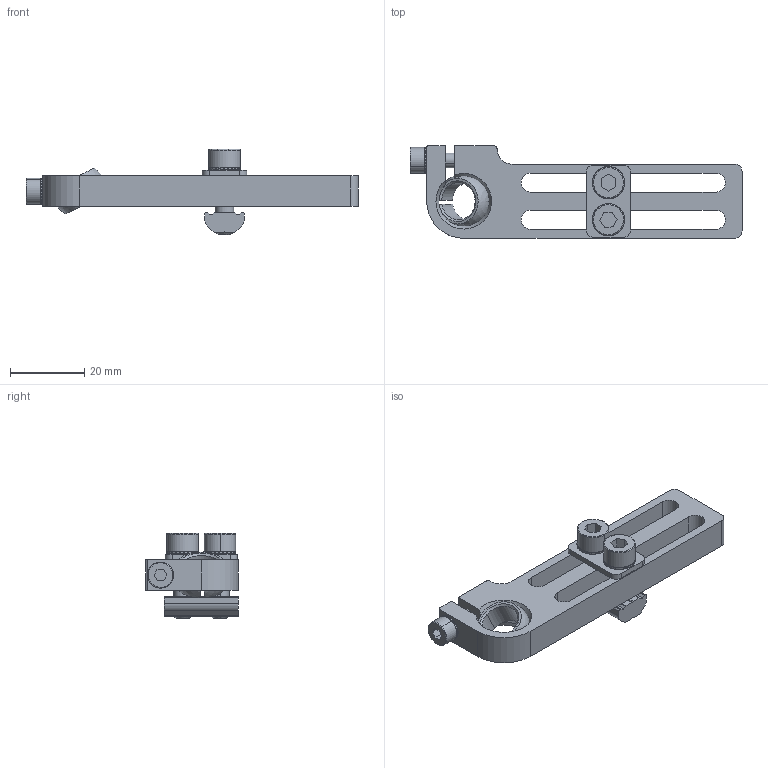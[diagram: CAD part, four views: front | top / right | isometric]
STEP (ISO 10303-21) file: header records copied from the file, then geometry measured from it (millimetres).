
FILE_DESCRIPTION(/* description */ (''),/* implementation_level */ '2;1');
FILE_NAME(/* name */ 'SMBE8-1050',/* time_stamp */ '2022-06-23T09:58:04+08:00',/* author */ (''),/* organization */ (''),/* preprocessor_version */ 'ST-DEVELOPER v9',/* originating_system */ 'UGS - NX 4.0',/* authorisation */ '');
FILE_SCHEMA (('AUTOMOTIVE_DESIGN { 1 0 10303 214 1 1 1 1 }'));
Length unit declared in the file: millimetre
Products named in the file (1): Admi849Cwone
Bounding box: 89.5 x 25 x 23 mm (x, y, z)
Volume: 11669.2 mm3; surface area: 10122.8 mm2
Topology: 10 solids, 10 shells, 758 faces, 2185 edges, 1442 vertices
Faces by surface type: plane 658, cylinder 75, cone 15, torus 6, sphere 4
Full cylindrical faces by diameter (mm): 3.3 x1, 4.2 x1
Entity records: 25206 total; most frequent: CARTESIAN_POINT 4552, DIRECTION 4415, ORIENTED_EDGE 4354, EDGE_CURVE 2177, AXIS2_PLACEMENT_3D 1504, VERTEX_POINT 1439, LINE 1407, VECTOR 1407
